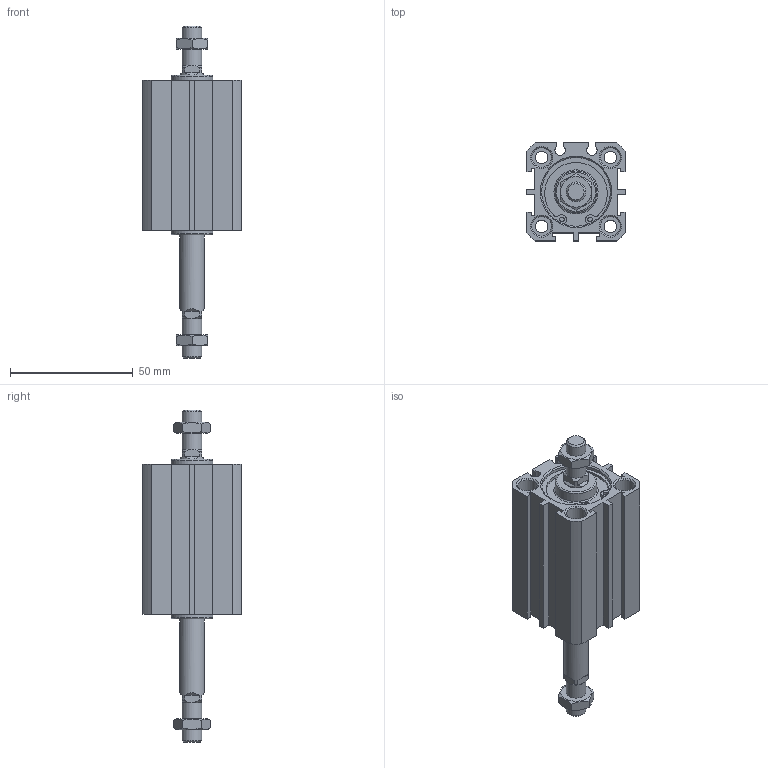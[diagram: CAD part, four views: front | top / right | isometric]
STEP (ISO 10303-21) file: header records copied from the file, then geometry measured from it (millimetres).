
FILE_DESCRIPTION((''),'2;1');
FILE_NAME('I:\3D電子目錄\氣缸\JDD\JDD-BS\JDD25-BS\JDD25x30-BS.stp','2007-02-27T13:44:58',('662F206'),(''),'Autodesk Inventor 10','Autodesk Inventor 10','');
FILE_SCHEMA(('AUTOMOTIVE_DESIGN { 1 0 10303 214 1 1 1 1 }'));
Length unit declared in the file: millimetre
Products named in the file (3): JDD25-BS; R 形環 28
Assembly tree (3 placements, depth 2):
  JDD25-BS
    JDD25-BS
    R 形環 28  x2
Bounding box: 40 x 40 x 135.2 mm (x, y, z)
Volume: 82559.4 mm3; surface area: 26094.1 mm2
Topology: 3 solids, 3 shells, 192 faces, 454 edges, 294 vertices
Faces by surface type: plane 108, cylinder 50, cone 26, bspline 6, torus 2
Full cylindrical faces by diameter (mm): 1.5 x2, 1.9 x4, 5.1 x4, 8 x12, 10 x2, 17 x2, 28 x4, 29.4 x2
Entity records: 4989 total; most frequent: CARTESIAN_POINT 1022, DIRECTION 812, ORIENTED_EDGE 724, EDGE_CURVE 362, AXIS2_PLACEMENT_3D 310, EDGE_LOOP 272, VERTEX_POINT 266, VECTOR 192
